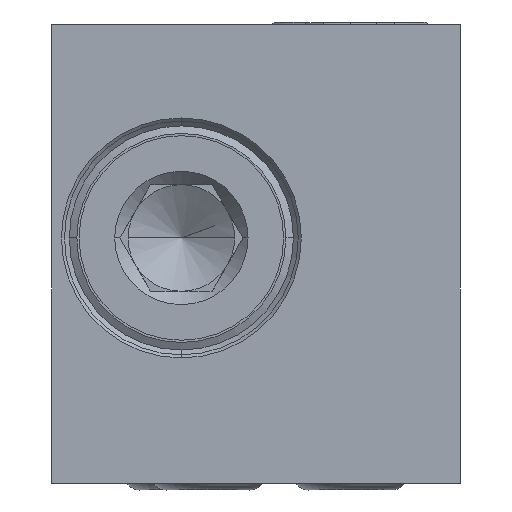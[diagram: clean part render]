
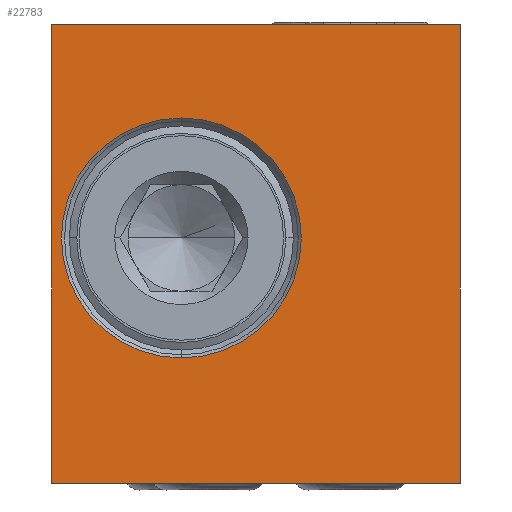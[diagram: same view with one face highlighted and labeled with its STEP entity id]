
A CAD part, left-side view. The second image highlights one B-rep face of the part: STEP entity #22783.
In plain terms, the highlighted planar face has unit normal (-1, 0, 0).
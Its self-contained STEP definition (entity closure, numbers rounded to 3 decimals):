
#4221=DIRECTION('',(0.,0.,1.));
#4222=VECTOR('',#4221,25.8);
#4223=CARTESIAN_POINT('',(-38.,11.5,-12.9));
#4224=LINE('',#4223,#4222);
#4225=DIRECTION('',(0.,-1.,0.));
#4226=VECTOR('',#4225,23.);
#4227=CARTESIAN_POINT('',(-38.,11.5,12.9));
#4228=LINE('',#4227,#4226);
#4229=DIRECTION('',(0.,0.,-1.));
#4230=VECTOR('',#4229,25.8);
#4231=CARTESIAN_POINT('',(-38.,-11.5,12.9));
#4232=LINE('',#4231,#4230);
#4233=DIRECTION('',(0.,1.,0.));
#4234=VECTOR('',#4233,23.);
#4235=CARTESIAN_POINT('',(-38.,-11.5,-12.9));
#4236=LINE('',#4235,#4234);
#4237=CARTESIAN_POINT('',(-38.,4.2,0.9));
#4238=DIRECTION('',(-1.,0.,0.));
#4239=DIRECTION('',(0.,0.,-1.));
#4240=AXIS2_PLACEMENT_3D('',#4237,#4238,#4239);
#4242=CARTESIAN_POINT('',(-38.,4.2,0.9));
#4243=DIRECTION('',(-1.,0.,0.));
#4244=DIRECTION('',(0.,0.,1.));
#4245=AXIS2_PLACEMENT_3D('',#4242,#4243,#4244);
#15571=CARTESIAN_POINT('',(-38.,11.5,12.9));
#15572=VERTEX_POINT('',#15571);
#15573=CARTESIAN_POINT('',(-38.,11.5,-12.9));
#15574=VERTEX_POINT('',#15573);
#15575=CARTESIAN_POINT('',(-38.,-11.5,12.9));
#15576=VERTEX_POINT('',#15575);
#15597=CARTESIAN_POINT('',(-38.,-11.5,-12.9));
#15598=VERTEX_POINT('',#15597);
#15643=CARTESIAN_POINT('',(-38.,4.2,-5.85));
#15644=CARTESIAN_POINT('',(-38.,4.2,7.65));
#15645=VERTEX_POINT('',#15643);
#15646=VERTEX_POINT('',#15644);
#22764=CARTESIAN_POINT('',(-38.,0.,0.));
#22765=DIRECTION('',(-1.,0.,0.));
#22766=DIRECTION('',(0.,-1.,0.));
#22767=AXIS2_PLACEMENT_3D('',#22764,#22765,#22766);
#22768=PLANE('',#22767);
#22769=ORIENTED_EDGE('',*,*,#22757,.T.);
#22770=ORIENTED_EDGE('',*,*,#20417,.T.);
#22772=ORIENTED_EDGE('',*,*,#22771,.T.);
#22774=ORIENTED_EDGE('',*,*,#22773,.T.);
#22775=EDGE_LOOP('',(#22769,#22770,#22772,#22774));
#22776=FACE_OUTER_BOUND('',#22775,.F.);
#22778=ORIENTED_EDGE('',*,*,#22777,.T.);
#22780=ORIENTED_EDGE('',*,*,#22779,.T.);
#22781=EDGE_LOOP('',(#22778,#22780));
#22782=FACE_BOUND('',#22781,.F.);
#22783=ADVANCED_FACE('',(#22776,#22782),#22768,.T.);
#4241=CIRCLE('',#4240,6.75);
#4246=CIRCLE('',#4245,6.75);
#20417=EDGE_CURVE('',#15572,#15576,#4228,.T.);
#22757=EDGE_CURVE('',#15574,#15572,#4224,.T.);
#22771=EDGE_CURVE('',#15576,#15598,#4232,.T.);
#22773=EDGE_CURVE('',#15598,#15574,#4236,.T.);
#22777=EDGE_CURVE('',#15645,#15646,#4241,.T.);
#22779=EDGE_CURVE('',#15646,#15645,#4246,.T.);
